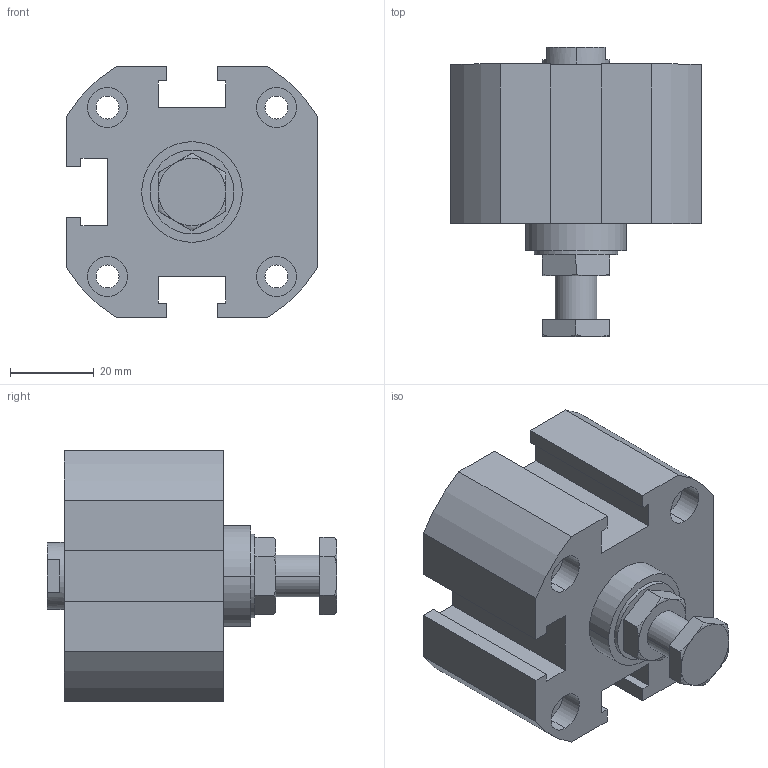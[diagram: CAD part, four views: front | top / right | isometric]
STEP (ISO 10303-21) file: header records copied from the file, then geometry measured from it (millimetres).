
FILE_DESCRIPTION (( 'STEP AP203' ), '1' );
FILE_NAME ('XCA2-40-10.STEP', '2016-05-24T02:31:17', ( '' ), ( '' ), 'SwSTEP 2.0', 'SolidWorks 2014', '' );
FILE_SCHEMA (( 'CONFIG_CONTROL_DESIGN' ));
Length unit declared in the file: millimetre
Products named in the file (3): XC#2-40-10; XCA2-40-10; X#A2-40-H
Assembly tree (2 placements, depth 2):
  XCA2-40-10
    XC#2-40-10
    X#A2-40-H
Bounding box: 60 x 69 x 60 mm (x, y, z)
Volume: 109872.7 mm3; surface area: 24128.6 mm2
Topology: 2 solids, 2 shells, 150 faces, 361 edges, 231 vertices
Faces by surface type: plane 68, cylinder 60, torus 12, cone 10
Entity records: 4852 total; most frequent: CARTESIAN_POINT 973, DIRECTION 785, ORIENTED_EDGE 710, EDGE_CURVE 355, AXIS2_PLACEMENT_3D 299, VERTEX_POINT 231, VECTOR 187, LINE 187
